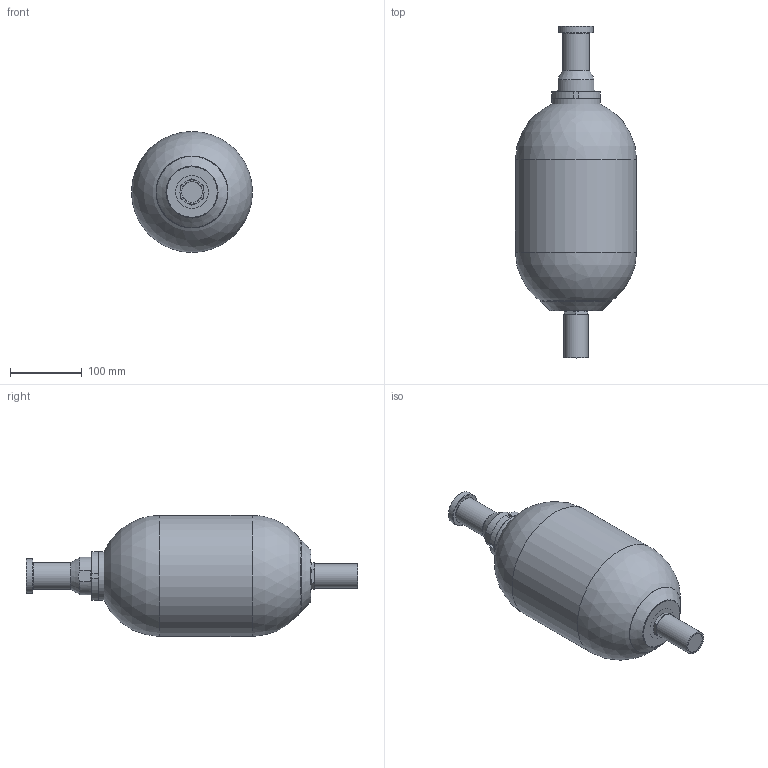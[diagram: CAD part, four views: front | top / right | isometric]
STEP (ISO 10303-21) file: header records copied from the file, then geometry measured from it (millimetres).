
FILE_DESCRIPTION((''),'2;1');
FILE_NAME('F:\STEP\ALLEGE\GAMME_EHVF_350&330&250bar\EHVF_4L_350_90.stp','2011-03-04T11:59:29',('laurent.simeon'),(''),'Autodesk Inventor 2011','Autodesk Inventor 2011','');
FILE_SCHEMA(('AUTOMOTIVE_DESIGN { 1 0 10303 214 1 1 1 1 }'));
Length unit declared in the file: millimetre
Products named in the file (39): EHVF_4L_350_90; CA108563-00190; BC108585-00220; BE100016-00200; BM108584-00200; CB108583-00200; EC100987-00200; EC102958-00200; BP102851-00200; BOUCHON DE PROTECTION; BOUCHON PLASTIQUE; VA108479-01626; VA108473-01626; VA108439-01600; VA108437-01600; PI108438-01600; RE100758-01200; JT104172-00023; JP102452-00026; ET106134-02600; BOUCHON DE VALVE; BO100759-02600; JP101164-00020; JOINT PLAT; PF108572-05200
Assembly tree (38 placements, depth 5):
  EHVF_4L_350_90
    CA108563-00190
      CA108563-00190
    BC108585-00220
      BE100016-00200
        BE100016-00200
      BM108584-00200
        CB108583-00200
          CB108583-00200
      EC100987-00200
        EC100987-00200
    EC102958-00200
      EC102958-00200
    BP102851-00200
      BOUCHON DE PROTECTION
      BOUCHON PLASTIQUE
    VA108479-01626
      VA108473-01626
        VA108439-01600
          VA108439-01600
        VA108437-01600
          VA108437-01600
        PI108438-01600
          PI108438-01600
        RE100758-01200
          RE100758-01200
        JT104172-00023
          JT104172-00023
        JP102452-00026
          JP102452-00026
        ET106134-02600
          ET106134-02600
      BOUCHON DE VALVE
        BO100759-02600
          BO100759-02600
        JP101164-00020
          JOINT PLAT
    PF108572-05200
      PF108572-05200
Bounding box: 168.3 x 461.4 x 168.3 mm (x, y, z)
Volume: 1571055.9 mm3; surface area: 380874.9 mm2
Topology: 23 solids, 23 shells, 677 faces, 1612 edges, 986 vertices
Faces by surface type: bspline 207, cylinder 183, plane 151, cone 75, torus 57, sphere 4
Full cylindrical faces by diameter (mm): 0.8 x1, 1.7 x1, 2 x1, 2.2 x1, 3.8 x1, 3.9 x1, 4.6 x1, 6.2 x1, 6.5 x1, 8 x1, 9 x3, 10 x1, 11 x6, 11.1 x1, 11.33 x1, 11.5 x1, 12.667 x1, 13 x1, 14.46 x1, 15.83 x1, 16 x2, 20.68 x1, 22 x2, 22.5 x1, 25 x1, 28.5 x2, 29.5 x1, 30.05 x1, 31 x1, 31.2 x1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
Entity records: 30055 total; most frequent: CARTESIAN_POINT 15421, ORIENTED_EDGE 2858, DIRECTION 2564, EDGE_CURVE 1429, AXIS2_PLACEMENT_3D 1128, VERTEX_POINT 928, EDGE_LOOP 877, FACE_OUTER_BOUND 676
